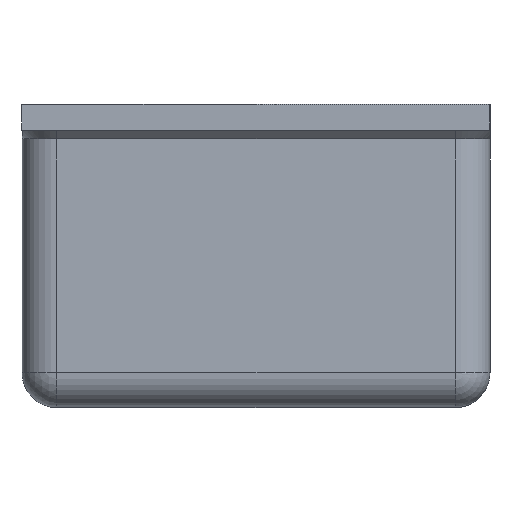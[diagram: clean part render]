
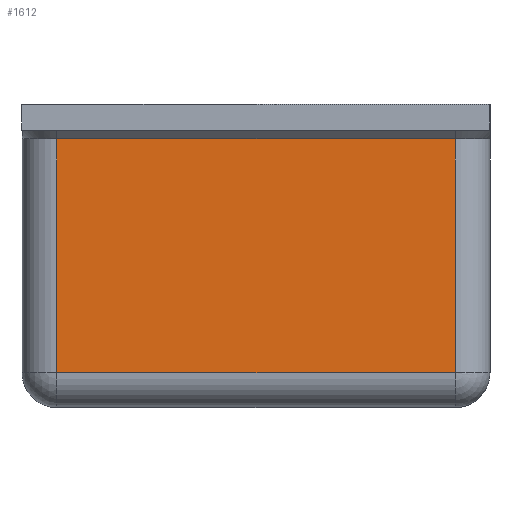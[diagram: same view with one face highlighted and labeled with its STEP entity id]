
A CAD part, left-side view. The second image highlights one B-rep face of the part: STEP entity #1612.
In plain terms, the highlighted planar face has unit normal (-1, 0, 0).
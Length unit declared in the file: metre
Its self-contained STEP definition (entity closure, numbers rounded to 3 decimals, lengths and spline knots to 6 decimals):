
#96=LINE('',#2501,#246);
#97=LINE('',#2504,#247);
#98=LINE('',#2506,#248);
#99=LINE('',#2508,#249);
#246=VECTOR('',#1962,1.);
#247=VECTOR('',#1963,1.);
#248=VECTOR('',#1964,1.);
#249=VECTOR('',#1965,1.);
#410=ORIENTED_EDGE('',*,*,#870,.T.);
#411=ORIENTED_EDGE('',*,*,#871,.T.);
#412=ORIENTED_EDGE('',*,*,#872,.T.);
#413=ORIENTED_EDGE('',*,*,#873,.T.);
#870=EDGE_CURVE('',#1100,#1101,#96,.F.);
#871=EDGE_CURVE('',#1101,#1102,#97,.T.);
#872=EDGE_CURVE('',#1102,#1103,#98,.T.);
#873=EDGE_CURVE('',#1103,#1100,#99,.T.);
#1100=VERTEX_POINT('',#2502);
#1101=VERTEX_POINT('',#2503);
#1102=VERTEX_POINT('',#2505);
#1103=VERTEX_POINT('',#2507);
#1300=EDGE_LOOP('',(#410,#411,#412,#413));
#1432=FACE_BOUND('',#1300,.T.);
#1561=PLANE('',#1740);
#1612=ADVANCED_FACE('',(#1432),#1561,.F.);
#1740=AXIS2_PLACEMENT_3D('',#2500,#1960,#1961);
#1960=DIRECTION('',(1.,0.,0.));
#1961=DIRECTION('',(0.,1.,0.));
#1962=DIRECTION('',(0.,0.,-1.));
#1963=DIRECTION('',(0.,1.,0.));
#1964=DIRECTION('',(0.,0.,-1.));
#1965=DIRECTION('',(0.,-1.,0.));
#2500=CARTESIAN_POINT('',(-0.0148,-0.0011,0.016));
#2501=CARTESIAN_POINT('',(-0.0148,-0.0126,0.016));
#2502=CARTESIAN_POINT('',(-0.0148,-0.0126,0.002));
#2503=CARTESIAN_POINT('',(-0.0148,-0.0126,0.0155));
#2504=CARTESIAN_POINT('',(-0.0148,0.0104,0.0155));
#2505=CARTESIAN_POINT('',(-0.0148,0.0104,0.0155));
#2506=CARTESIAN_POINT('',(-0.0148,0.0104,0.016));
#2507=CARTESIAN_POINT('',(-0.0148,0.0104,0.002));
#2508=CARTESIAN_POINT('',(-0.0148,-0.0011,0.002));
